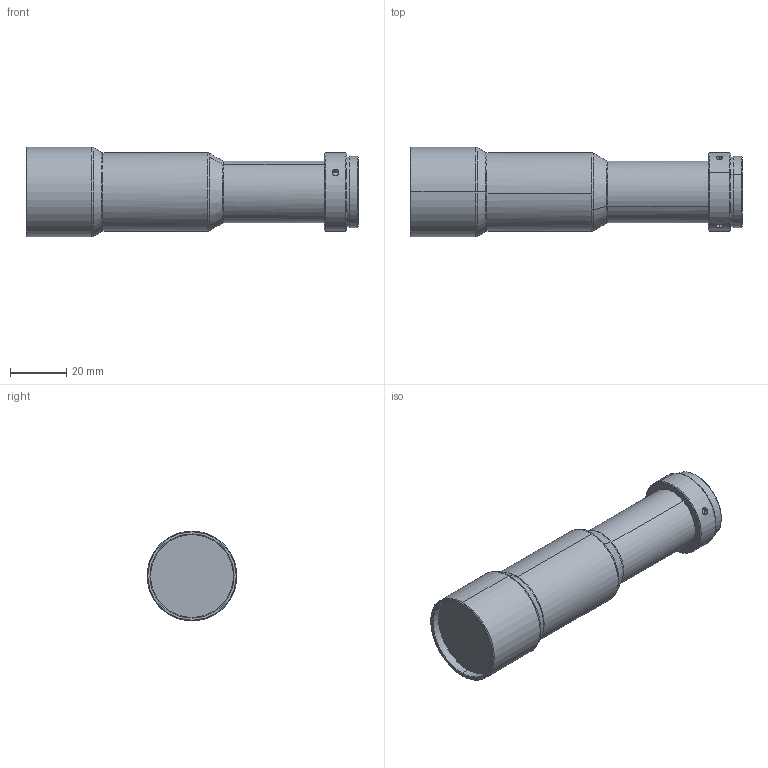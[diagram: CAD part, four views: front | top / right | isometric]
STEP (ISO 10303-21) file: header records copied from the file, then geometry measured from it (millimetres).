
FILE_DESCRIPTION (( 'STEP AP203' ), '1' );
FILE_NAME ('WWH12-108ATV3.STEP', '2023-06-16T09:37:21', ( '' ), ( '' ), 'SwSTEP 2.0', 'SolidWorks 2017', '' );
FILE_SCHEMA (( 'CONFIG_CONTROL_DESIGN' ));
Length unit declared in the file: millimetre
Products named in the file (1): WWH12-108ATV3
Bounding box: 118.15 x 32 x 32 mm (x, y, z)
Volume: 65316.8 mm3; surface area: 12150.1 mm2
Topology: 1 solids, 1 shells, 56 faces, 116 edges, 70 vertices
Faces by surface type: cylinder 25, cone 16, torus 8, plane 7
Entity records: 1747 total; most frequent: CARTESIAN_POINT 447, DIRECTION 284, ORIENTED_EDGE 232, AXIS2_PLACEMENT_3D 123, EDGE_CURVE 116, VERTEX_POINT 70, CIRCLE 66, EDGE_LOOP 64
